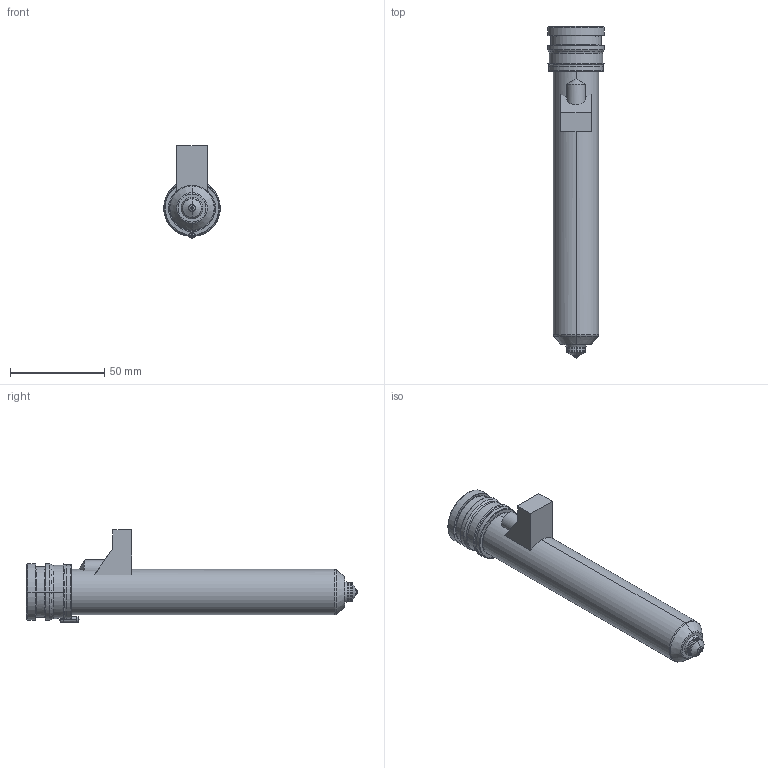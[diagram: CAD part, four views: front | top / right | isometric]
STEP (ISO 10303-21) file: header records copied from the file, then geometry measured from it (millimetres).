
FILE_DESCRIPTION((''),'2;1');
FILE_NAME('MPN-10-29-VSA10-156-M','2026-02-05T13:01:21',('UPTIO'),('Thermoplay S.p.A.'),'CREO PARAMETRIC BY PTC INC, 2023494','CREO PARAMETRIC BY PTC INC, 2023494','');
FILE_SCHEMA(('CONFIG_CONTROL_DESIGN','SHAPE_APPEARANCE_LAYERS_GROUPS'));
Length unit declared in the file: millimetre
Products named in the file (1): MPN-10-29-VSA10-156-M
Bounding box: 30 x 176 x 49 mm (x, y, z)
Volume: 55042.5 mm3; surface area: 56596.4 mm2
Topology: 3 solids, 5 shells, 546 faces, 1379 edges, 839 vertices
Faces by surface type: cylinder 181, plane 145, bspline 71, torus 69, cone 68, sphere 8, extrusion 4
Entity records: 28650 total; most frequent: CARTESIAN_POINT 12786, ORIENTED_EDGE 2744, DIRECTION 2618, EDGE_CURVE 1372, AXIS2_PLACEMENT_3D 1038, VERTEX_POINT 839, EDGE_LOOP 575, CIRCLE 566
